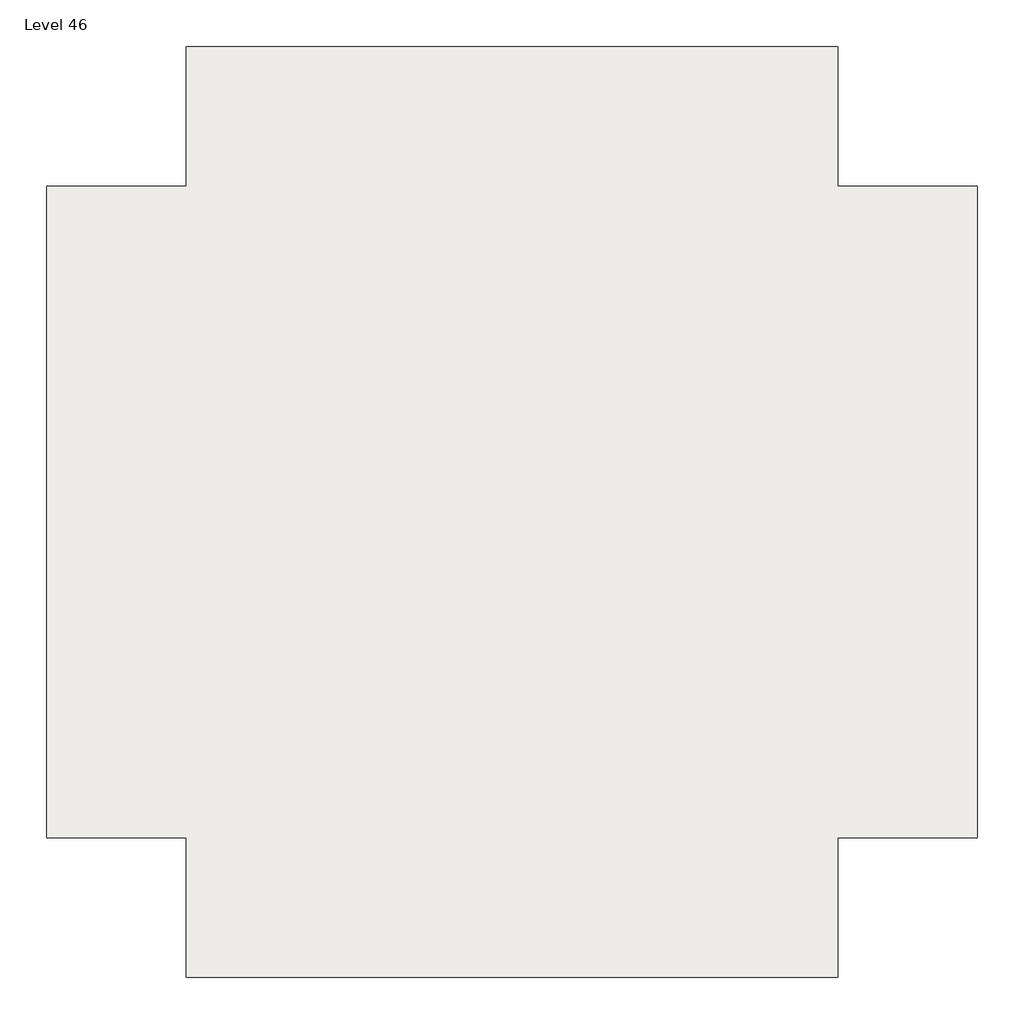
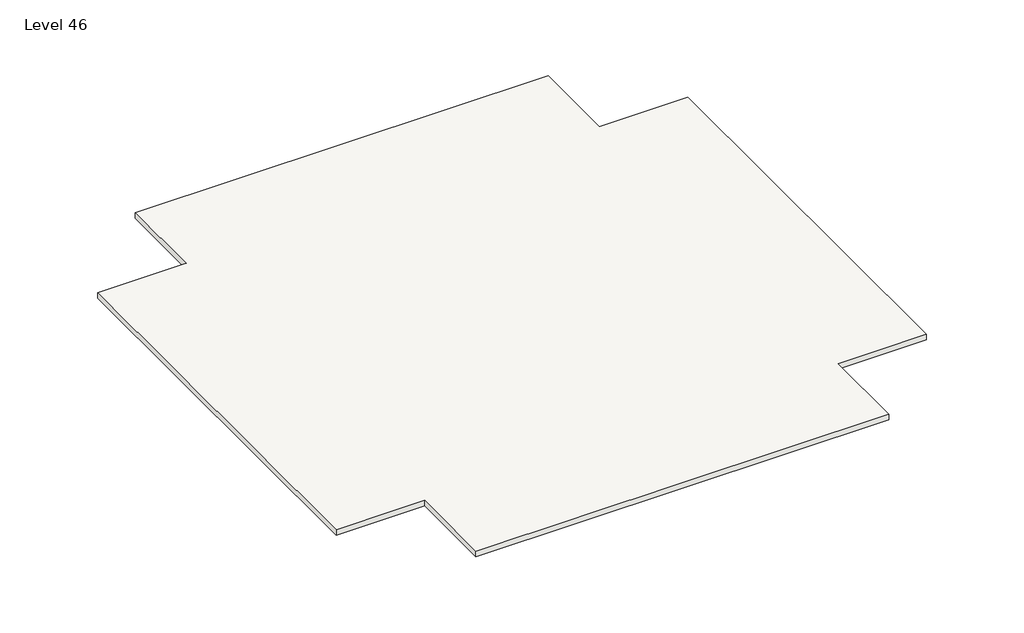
# One storey: 2 slabs.
"""IFC4 building model written with IfcOpenShell, lengths in millimetres."""

import ifcopenshell
import ifcopenshell.guid

model = None  # the IFC model being written
_history = None  # IfcOwnerHistory: only IFC2X3 demands one
_inside = {}  # id of a spatial element -> (the spatial element, [elements in it])
_under = {}  # id of a project, library or spatial element -> (it, [spatial elements below it])
_declared = {}  # id of a project -> (the project, [libraries it declares])
_typed = {}  # id of a type object -> (the type object, [elements of that type])
_made_of = {}  # id of a material, layer set ... -> (it, [elements and type objects made of it])


def new_model(schema):
    """Start an empty IFC model of exactly this schema.

    Asked for "IFC4X3", IfcOpenShell would pick the latest addendum, in which some entities
    have other attributes; the version numbers below select the first issue.
    IFC2X3 requires an IfcOwnerHistory on every rooted entity: one is made here for all.
    """
    global model, _history
    if schema == "IFC4X3":
        model = ifcopenshell.file(schema_version=(4, 3, 0, 0))
    else:
        model = ifcopenshell.file(schema=schema)
    _inside.clear()
    _under.clear()
    _declared.clear()
    _typed.clear()
    _made_of.clear()
    _history = None
    if model.schema == "IFC2X3":
        org = make("IfcOrganization", Name="unknown")
        user = make(
            "IfcPersonAndOrganization",
            ThePerson=make("IfcPerson", FamilyName="unknown"),
            TheOrganization=org,
        )
        app = make(
            "IfcApplication",
            ApplicationDeveloper=org,
            Version="unknown",
            ApplicationFullName="unknown",
            ApplicationIdentifier="unknown",
        )
        _history = make(
            "IfcOwnerHistory",
            OwningUser=user,
            OwningApplication=app,
            ChangeAction="ADDED",
            CreationDate=0,
        )
    return model


def make(cls, **values):
    """One entity of the class cls with the attributes given. An attribute that is None is left unset."""
    return model.create_entity(
        cls, **{name: value for name, value in values.items() if value is not None}
    )


def rooted(cls, **values):
    """An entity with a GlobalId (a new one), such as an element, a storey or a relation."""
    return make(cls, GlobalId=ifcopenshell.guid.new(), OwnerHistory=_history, **values)


def si_unit(unit_type, name, prefix=None):
    """IfcSIUnit, for example si_unit("LENGTHUNIT", "METRE", prefix="MILLI")."""
    return make("IfcSIUnit", UnitType=unit_type, Prefix=prefix, Name=name)


def assignment(units):
    """IfcUnitAssignment: the units of a project."""
    return None if units is None else make("IfcUnitAssignment", Units=units)


def point(xyz):
    """IfcCartesianPoint."""
    return None if xyz is None else make("IfcCartesianPoint", Coordinates=xyz)


def direction(xyz):
    """IfcDirection."""
    return None if xyz is None else make("IfcDirection", DirectionRatios=xyz)


def frame(location, z_axis=None, x_axis=None):
    """IfcAxis2Placement3D, a coordinate frame: its origin and axes. An axis left out is left unset."""
    return make(
        "IfcAxis2Placement3D",
        Location=point(location),
        Axis=direction(z_axis),
        RefDirection=direction(x_axis),
    )


def origin():
    """The frame at (0, 0, 0) with its axes left unset."""
    return frame((0.0, 0.0, 0.0))


def place(relative_to, where):
    """IfcLocalPlacement: puts the frame where relative to a parent placement (None: the world)."""
    return make(
        "IfcLocalPlacement", PlacementRelTo=relative_to, RelativePlacement=where
    )


def context(
    kind, dimensions, precision=None, world=None, true_north=None, identifier=None
):
    """IfcGeometricRepresentationContext, for example the 3D "Model" context."""
    return make(
        "IfcGeometricRepresentationContext",
        ContextIdentifier=identifier,
        ContextType=kind,
        CoordinateSpaceDimension=dimensions,
        Precision=precision,
        WorldCoordinateSystem=world,
        TrueNorth=true_north,
    )


def project(units=None, contexts=None):
    """IfcProject with its units and contexts."""
    return rooted(
        "IfcProject",
        Name="project",
        RepresentationContexts=contexts,
        UnitsInContext=assignment(units),
    )


def spatial(cls, under=None, at=None, **own):
    """A site, building, storey or space (cls), placed at a placement, below another one or the project."""
    s = rooted(cls, ObjectPlacement=at, **own)
    if under is not None:
        _under.setdefault(under.id(), (under, []))[1].append(s)
    return s


def polyline(points):
    """IfcPolyline through the points."""
    return make("IfcPolyline", Points=[point(p) for p in points])


def outline(outer, holes=None, kind="AREA"):
    """IfcArbitraryClosedProfileDef: a profile drawn as a closed curve; with holes, ...WithVoids."""
    if holes is None:
        return make("IfcArbitraryClosedProfileDef", ProfileType=kind, OuterCurve=outer)
    return make(
        "IfcArbitraryProfileDefWithVoids",
        ProfileType=kind,
        OuterCurve=outer,
        InnerCurves=holes,
    )


def extrude(swept, where, along, depth):
    """IfcExtrudedAreaSolid: the profile swept, set in the frame where, extruded along a direction by depth."""
    return make(
        "IfcExtrudedAreaSolid",
        SweptArea=swept,
        Position=where,
        ExtrudedDirection=direction(along),
        Depth=depth,
    )


def shape(context_of_items, identifier, shape_type, items):
    """IfcShapeRepresentation: the items that make up one representation, for example the "Body"."""
    return make(
        "IfcShapeRepresentation",
        ContextOfItems=context_of_items,
        RepresentationIdentifier=identifier,
        RepresentationType=shape_type,
        Items=items,
    )


def made_of(thing, what):
    """Note that an element or type object is made of a material, layer set ...; save() writes the relation."""
    if what is not None:
        _made_of.setdefault(what.id(), (what, []))[1].append(thing)
    return thing


def element(
    cls,
    number,
    at=None,
    inside=None,
    cuts=None,
    type_object=None,
    material=None,
    context=None,
    identifier="Body",
    shape_type=None,
    held_by="IfcProductDefinitionShape",
    body=None,
    shapes=None,
    **own,
):
    """One element of the class cls, such as IfcWall. Its Tag is "e" and its number.

    at: its placement. inside: the storey or other place that contains it. cuts: it is an
    opening in that element (IfcRelVoidsElement). A single representation is given by context,
    identifier, shape_type and body (its items); several are given by shapes. held_by: the class
    of the entity that holds the representations. save() writes the other relations.
    """
    e = rooted(cls, Tag="e%d" % number, ObjectPlacement=at, **own)
    if body is not None:
        shapes = [shape(context, identifier, shape_type, body)]
    if shapes is not None:
        e.Representation = make(held_by, Representations=shapes)
    if inside is not None:
        _inside.setdefault(inside.id(), (inside, []))[1].append(e)
    if cuts is not None:
        rooted(
            "IfcRelVoidsElement", RelatingBuildingElement=cuts, RelatedOpeningElement=e
        )
    if type_object is not None:
        _typed.setdefault(type_object.id(), (type_object, []))[1].append(e)
    return made_of(e, material)


def aggregate(whole, parts):
    """IfcRelAggregates: a whole, such as a stair, and the parts it consists of."""
    return rooted("IfcRelAggregates", RelatingObject=whole, RelatedObjects=parts)


def save(model, path):
    """Write the relations noted so far, then the file.

    IfcRelAggregates (storeys below a building ...), IfcRelContainedInSpatialStructure (elements
    in a storey), IfcRelDefinesByType, IfcRelAssociatesMaterial and IfcRelDeclares: one each for
    every whole, place, type object, material and project.
    """
    for whole, parts in _under.values():
        aggregate(whole, parts)
    for where, things in _inside.values():
        rooted(
            "IfcRelContainedInSpatialStructure",
            RelatedElements=things,
            RelatingStructure=where,
        )
    for kind, things in _typed.values():
        rooted("IfcRelDefinesByType", RelatedObjects=things, RelatingType=kind)
    for what, things in _made_of.values():
        rooted("IfcRelAssociatesMaterial", RelatedObjects=things, RelatingMaterial=what)
    for by, libraries in _declared.values():
        rooted("IfcRelDeclares", RelatingContext=by, RelatedDefinitions=libraries)
    model.write(path)


model = new_model("IFC4")

# Units and contexts
model_context = context("Model", 3, world=origin())
ifc_project = project(units=[si_unit("LENGTHUNIT", "METRE", prefix="MILLI")], contexts=[model_context])

# Site, building, storey
site = spatial("IfcSite", under=ifc_project)
building = spatial("IfcBuilding", under=site)
storey = spatial("IfcBuildingStorey", under=building, Name="Level 46", Elevation=137160.0)

# Slabs
placement = place(None, origin())
element("IfcSlab", 1, ObjectType="Generic - 12\"", at=placement, inside=storey, context=model_context, shape_type="SweptSolid", body=[
    extrude(outline(polyline([(-7150.3629456, 4479.6634547), (-7150.3629456, 9051.6634547), (14185.6370544, 9051.6634547), (14185.6370544, 4479.6634547), (18757.6370544, 4479.6634547), (18757.6370544, -16856.3365453), (14185.6370544, -16856.3365453), (14185.6370544, -21428.3365453), (-7150.3629456, -21428.3365453), (-7150.3629456, -16856.3365453), (-11722.3629456, -16856.3365453), (-11722.3629456, 4479.6634547), (-7150.3629456, 4479.6634547)])), frame((0.0, 0.0, 136855.2), z_axis=(0.0, 0.0, 1.0), x_axis=(1.0, 0.0, 0.0)), (0.0, 0.0, 1.0), 304.8),
])
element("IfcSlab", 2, ObjectType="Generic - 12\"", at=placement, inside=storey, context=model_context, shape_type="SweptSolid", body=[
    extrude(outline(polyline([(-7150.3629456, 4479.6634547), (-7150.3629456, 9051.6634547), (14185.6370544, 9051.6634547), (14185.6370544, 4479.6634547), (18757.6370544, 4479.6634547), (18757.6370544, -16856.3365453), (14185.6370544, -16856.3365453), (14185.6370544, -21428.3365453), (-7150.3629456, -21428.3365453), (-7150.3629456, -16856.3365453), (-11722.3629456, -16856.3365453), (-11722.3629456, 4479.6634547), (-7150.3629456, 4479.6634547)])), frame((0.0, 0.0, 136855.2), z_axis=(0.0, 0.0, 1.0), x_axis=(1.0, 0.0, 0.0)), (0.0, 0.0, 1.0), 304.8),
])

save(model, "model.ifc")
